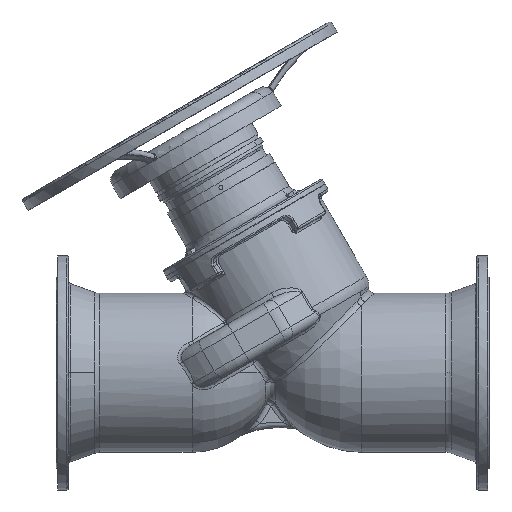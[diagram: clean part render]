
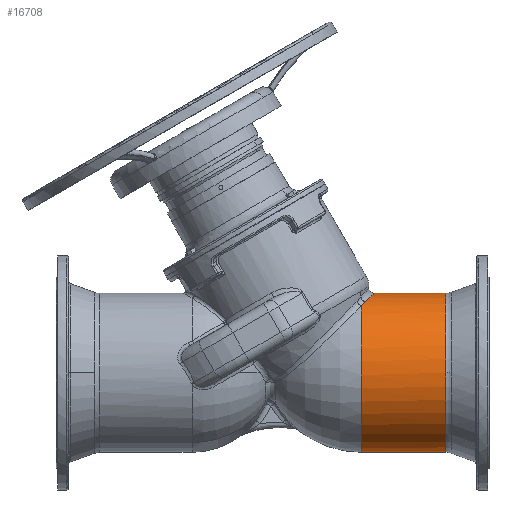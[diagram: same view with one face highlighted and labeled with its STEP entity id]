
A CAD part, left-side view. The second image highlights one B-rep face of the part: STEP entity #16708.
In plain terms, the highlighted cylindrical face has radius 156 mm (diameter 312 mm), a partial arc.
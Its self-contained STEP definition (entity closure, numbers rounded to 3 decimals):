
#43 = CARTESIAN_POINT ( 'NONE',  ( 0., 250.777, -156. ) ) ;
#158 = ORIENTED_EDGE ( 'NONE', *, *, #4554, .F. ) ;
#830 = VECTOR ( 'NONE', #46882, 1000. ) ;
#870 = B_SPLINE_CURVE_WITH_KNOTS ( 'NONE', 5,
 ( #59059, #59587, #59659, #58987, #58978, #58905, #58857, #58797, #58719 ),
 .UNSPECIFIED., .F., .F.,
 ( 6, 3, 6 ),
 ( 0., 0.535, 1. ),
 .UNSPECIFIED. ) ;
#2156 = CARTESIAN_POINT ( 'NONE',  ( -75.491, 245.213, 136.617 ) ) ;
#2348 = B_SPLINE_CURVE_WITH_KNOTS ( 'NONE', 3,
 ( #44608, #2156, #56755, #31669 ),
 .UNSPECIFIED., .F., .F.,
 ( 4, 4 ),
 ( 0., 1. ),
 .UNSPECIFIED. ) ;
#4554 = EDGE_CURVE ( 'NONE', #14778, #27693, #870, .T. ) ;
#6093 = AXIS2_PLACEMENT_3D ( 'NONE', #43853, #16295, #48557 ) ;
#6215 = EDGE_CURVE ( 'NONE', #37826, #19894, #26633, .T. ) ;
#6997 = EDGE_CURVE ( 'NONE', #14778, #24724, #2348, .T. ) ;
#8319 = EDGE_CURVE ( 'NONE', #40135, #42274, #36503, .T. ) ;
#8966 = EDGE_CURVE ( 'NONE', #40135, #37826, #25080, .T. ) ;
#9184 = CIRCLE ( 'NONE', #6093, 156. ) ;
#11735 = AXIS2_PLACEMENT_3D ( 'NONE', #36585, #36525, #36512 ) ;
#12253 = CARTESIAN_POINT ( 'NONE',  ( 0., 85.29, 0. ) ) ;
#14778 = VERTEX_POINT ( 'NONE', #56945 ) ;
#16001 = CARTESIAN_POINT ( 'NONE',  ( -84.208, 250.777, 131.32 ) ) ;
#16295 = DIRECTION ( 'NONE',  ( 0., -1., 0. ) ) ;
#16708 = ADVANCED_FACE ( 'NONE', ( #50736 ), #38413, .T. ) ;
#17379 = AXIS2_PLACEMENT_3D ( 'NONE', #29697, #29687, #29642 ) ;
#19894 = VERTEX_POINT ( 'NONE', #21305 ) ;
#21305 = CARTESIAN_POINT ( 'NONE',  ( 0., 85.29, 156. ) ) ;
#22494 = VECTOR ( 'NONE', #33986, 1000. ) ;
#24724 = VERTEX_POINT ( 'NONE', #16001 ) ;
#25080 = CIRCLE ( 'NONE', #11735, 156. ) ;
#25659 = EDGE_CURVE ( 'NONE', #19894, #27693, #34725, .T. ) ;
#26633 = CIRCLE ( 'NONE', #17379, 156. ) ;
#27693 = VERTEX_POINT ( 'NONE', #46624 ) ;
#29497 = CARTESIAN_POINT ( 'NONE',  ( 0., 85.29, 156. ) ) ;
#29642 = DIRECTION ( 'NONE',  ( 0., 0., 1. ) ) ;
#29687 = DIRECTION ( 'NONE',  ( 0., 1., 0. ) ) ;
#29697 = CARTESIAN_POINT ( 'NONE',  ( 0., 85.29, 0. ) ) ;
#31014 = DIRECTION ( 'NONE',  ( 0., 1., 0. ) ) ;
#31669 = CARTESIAN_POINT ( 'NONE',  ( -84.208, 250.777, 131.32 ) ) ;
#33986 = DIRECTION ( 'NONE',  ( 0., 1., 0. ) ) ;
#34725 = LINE ( 'NONE', #29497, #22494 ) ;
#35555 = DIRECTION ( 'NONE',  ( 0., 0., 1. ) ) ;
#36503 = LINE ( 'NONE', #46892, #830 ) ;
#36512 = DIRECTION ( 'NONE',  ( 0., 0., 1. ) ) ;
#36525 = DIRECTION ( 'NONE',  ( 0., 1., 0. ) ) ;
#36534 = ORIENTED_EDGE ( 'NONE', *, *, #6997, .T. ) ;
#36585 = CARTESIAN_POINT ( 'NONE',  ( 0., 85.29, 0. ) ) ;
#37826 = VERTEX_POINT ( 'NONE', #57147 ) ;
#38413 = CYLINDRICAL_SURFACE ( 'NONE', #46384, 156. ) ;
#39807 = ORIENTED_EDGE ( 'NONE', *, *, #8966, .T. ) ;
#40135 = VERTEX_POINT ( 'NONE', #44508 ) ;
#40344 = EDGE_LOOP ( 'NONE', ( #44070, #39807, #47055, #42961, #158, #36534, #60032 ) ) ;
#42274 = VERTEX_POINT ( 'NONE', #43 ) ;
#42961 = ORIENTED_EDGE ( 'NONE', *, *, #25659, .T. ) ;
#43853 = CARTESIAN_POINT ( 'NONE',  ( 0., 250.777, 0. ) ) ;
#44070 = ORIENTED_EDGE ( 'NONE', *, *, #8319, .F. ) ;
#44508 = CARTESIAN_POINT ( 'NONE',  ( 0., 85.29, -156. ) ) ;
#44608 = CARTESIAN_POINT ( 'NONE',  ( -70.851, 242.797, 138.983 ) ) ;
#46384 = AXIS2_PLACEMENT_3D ( 'NONE', #12253, #31014, #35555 ) ;
#46624 = CARTESIAN_POINT ( 'NONE',  ( 0., 226.046, 156. ) ) ;
#46882 = DIRECTION ( 'NONE',  ( 0., 1., 0. ) ) ;
#46892 = CARTESIAN_POINT ( 'NONE',  ( 0., 85.29, -156. ) ) ;
#47055 = ORIENTED_EDGE ( 'NONE', *, *, #6215, .T. ) ;
#48557 = DIRECTION ( 'NONE',  ( 1., 0., 0. ) ) ;
#50736 = FACE_OUTER_BOUND ( 'NONE', #40344, .T. ) ;
#55943 = EDGE_CURVE ( 'NONE', #24724, #42274, #9184, .T. ) ;
#56755 = CARTESIAN_POINT ( 'NONE',  ( -79.947, 247.873, 134.052 ) ) ;
#56945 = CARTESIAN_POINT ( 'NONE',  ( -70.851, 242.797, 138.983 ) ) ;
#57147 = CARTESIAN_POINT ( 'NONE',  ( -156., 85.29, 0. ) ) ;
#58719 = CARTESIAN_POINT ( 'NONE',  ( 0., 226.046, 156. ) ) ;
#58797 = CARTESIAN_POINT ( 'NONE',  ( -7.101, 226.046, 156. ) ) ;
#58857 = CARTESIAN_POINT ( 'NONE',  ( -14.201, 226.43, 155.596 ) ) ;
#58905 = CARTESIAN_POINT ( 'NONE',  ( -21.239, 227.199, 154.788 ) ) ;
#58978 = CARTESIAN_POINT ( 'NONE',  ( -36.107, 229.654, 152.222 ) ) ;
#58987 = CARTESIAN_POINT ( 'NONE',  ( -50.19, 233.743, 148.016 ) ) ;
#59059 = CARTESIAN_POINT ( 'NONE',  ( -70.851, 242.797, 138.983 ) ) ;
#59587 = CARTESIAN_POINT ( 'NONE',  ( -64.321, 239.398, 142.311 ) ) ;
#59659 = CARTESIAN_POINT ( 'NONE',  ( -57.426, 236.369, 145.343 ) ) ;
#60032 = ORIENTED_EDGE ( 'NONE', *, *, #55943, .T. ) ;
